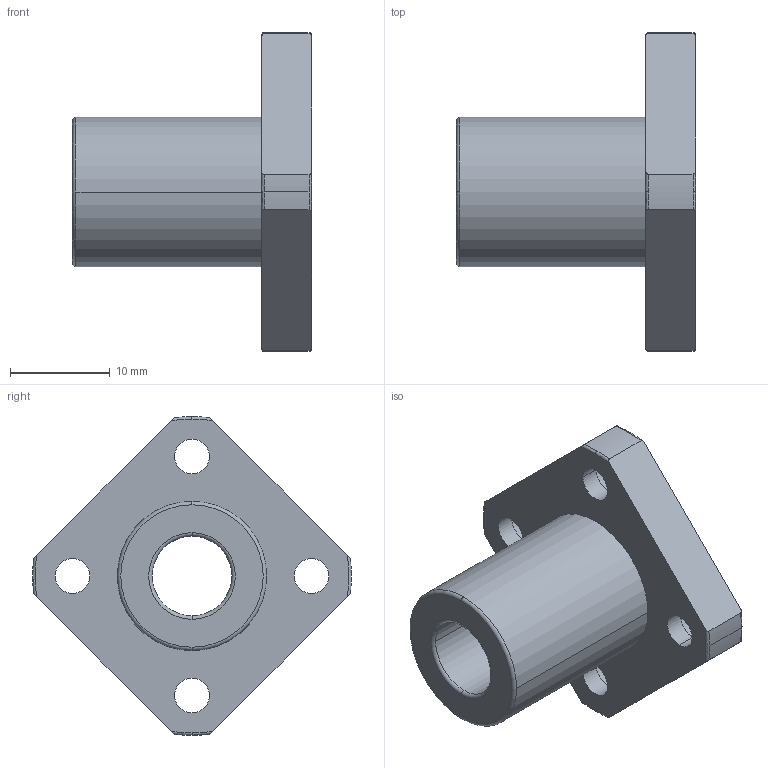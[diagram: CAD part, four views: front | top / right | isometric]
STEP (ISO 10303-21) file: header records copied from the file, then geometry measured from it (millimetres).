
FILE_DESCRIPTION(('FreeCAD Model'),'2;1');
FILE_NAME('Open CASCADE Shape Model','2021-05-03T13:17:48',('Author'),( ''),'Open CASCADE STEP processor 7.5','FreeCAD','Unknown');
FILE_SCHEMA(('AUTOMOTIVE_DESIGN { 1 0 10303 214 1 1 1 1 }'));
Length unit declared in the file: millimetre
Products named in the file (1): linear_lmk8uu
Bounding box: 24 x 32 x 32 mm (x, y, z)
Volume: 4791.1 mm3; surface area: 3317.8 mm2
Topology: 1 solids, 1 shells, 55 faces, 147 edges, 99 vertices
Faces by surface type: cylinder 26, torus 18, plane 11
Entity records: 4837 total; most frequent: CARTESIAN_POINT 1912, DIRECTION 560, ORIENTED_EDGE 294, PCURVE 294, DEFINITIONAL_REPRESENTATION 294, LINE 245, VECTOR 245, AXIS2_PLACEMENT_3D 149
